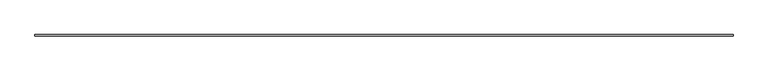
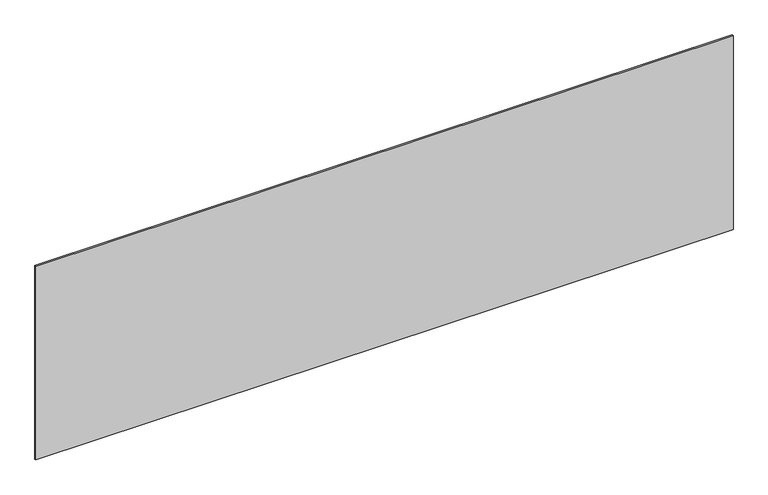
"""IFC4 building model written with IfcOpenShell, lengths in millimetres: plate geometry, システム パネル : 標準."""

from ifc_helpers import new_model, si_unit, origin, origin_with_axes, place, context, project, spatial, polyline, outline, extrude, source, transform, mapped, element, save


def plate_ecb06764(model_context):
    return source(origin(), model_context, "Body", "SweptSolid", [
        extrude(outline(polyline([(2264.1666667, -5.0), (-2264.1666667, -5.0), (-2264.1666667, 5.0), (2264.1666667, 5.0), (2264.1666667, -5.0)])), origin_with_axes(), (0.0, 0.0, 1.0), 1330.1743306),
    ])


if __name__ == "__main__":
    model = new_model("IFC4")
    model_context = context("Model", 3, world=origin())
    ifc_project = project(units=[si_unit("LENGTHUNIT", "METRE", prefix="MILLI")], contexts=[model_context])
    site = spatial("IfcSite", under=ifc_project)
    building = spatial("IfcBuilding", under=site)
    placement = place(None, origin())
    plate_shape = plate_ecb06764(model_context)
    element("IfcPlate", 1, ObjectType="システム パネル : 標準", at=placement, inside=building, context=model_context, shape_type="MappedRepresentation", body=[
        mapped(plate_shape, transform((0.0, 0.0, 0.0), x_axis=(1.0, 0.0, 0.0), y_axis=(0.0, 1.0, 0.0), z_axis=(0.0, 0.0, 1.0))),
    ])
    save(model, "model.ifc")
